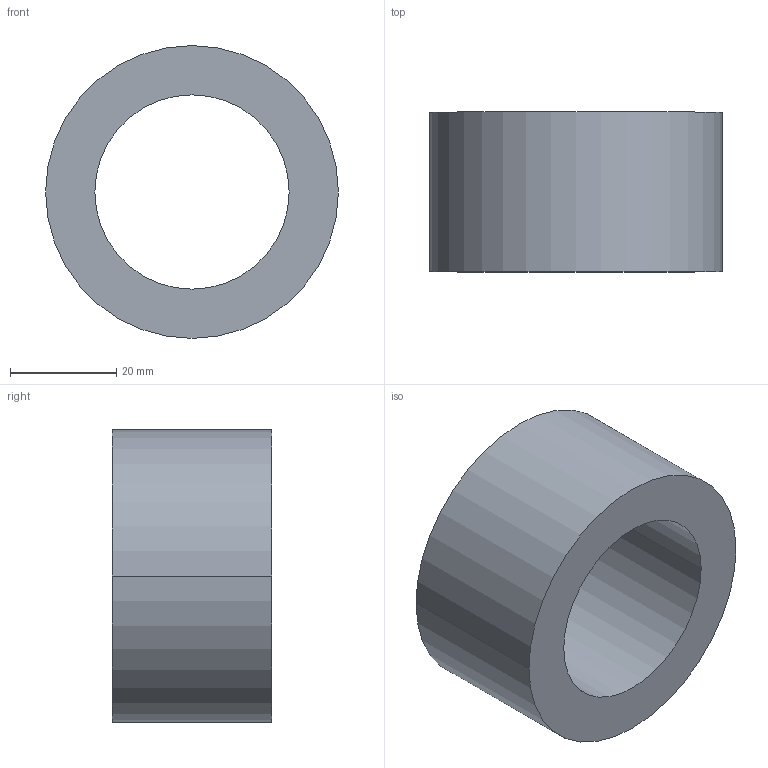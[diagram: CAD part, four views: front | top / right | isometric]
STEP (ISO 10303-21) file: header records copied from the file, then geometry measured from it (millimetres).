
FILE_DESCRIPTION (( 'STEP AP203' ), '1' );
FILE_NAME ('30800.WPP55L36.5.step', '2019-01-23T22:54:05', ( '' ), ( '' ), 'SwSTEP 2.0', 'SolidWorks 2017', '' );
FILE_SCHEMA (( 'CONFIG_CONTROL_DESIGN' ));
Length unit declared in the file: millimetre
Products named in the file (1): 30800.WPP55L36.5
Bounding box: 55 x 30 x 55 mm (x, y, z)
Volume: 39570.1 mm3; surface area: 11115.8 mm2
Topology: 1 solids, 1 shells, 8 faces, 16 edges, 10 vertices
Faces by surface type: cylinder 4, torus 2, plane 2
Entity records: 297 total; most frequent: DIRECTION 46, CARTESIAN_POINT 35, ORIENTED_EDGE 32, AXIS2_PLACEMENT_3D 21, EDGE_CURVE 16, CIRCLE 12, VERTEX_POINT 10, EDGE_LOOP 10
